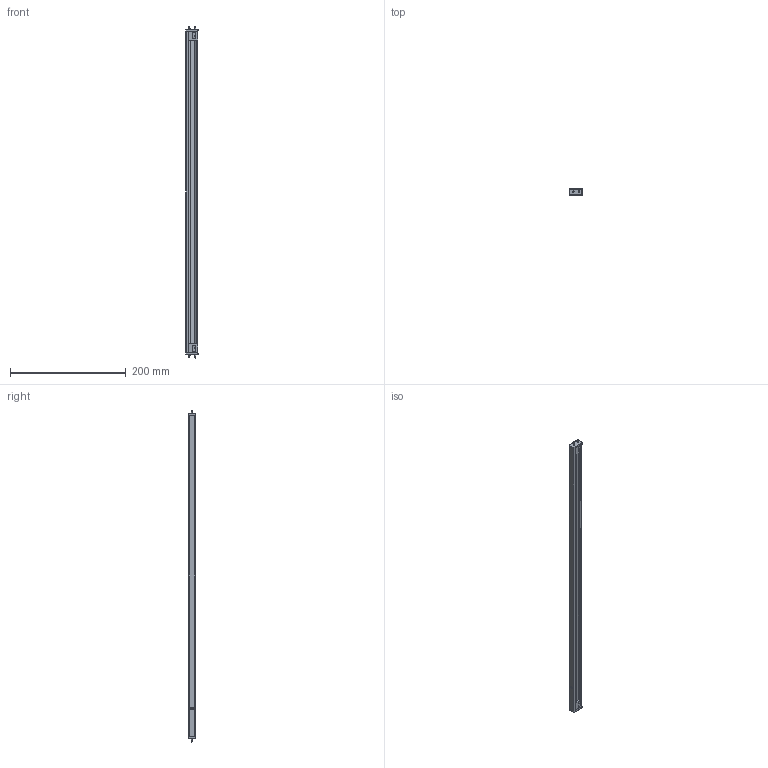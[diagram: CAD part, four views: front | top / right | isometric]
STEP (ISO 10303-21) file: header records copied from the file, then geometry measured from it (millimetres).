
FILE_DESCRIPTION (( 'STEP AP214' ), '1' );
FILE_NAME ('2000831 Kiton IRD Blue Light 561 mm.STEP', '2022-11-02T11:29:32', ( '' ), ( '' ), 'SwSTEP 2.0', 'SolidWorks 2021', '' );
FILE_SCHEMA (( 'AUTOMOTIVE_DESIGN' ));
Length unit declared in the file: millimetre
Products named in the file (11): SUPPORTO TESTATA_SUPPORTO TESTATA SX; TESTATA_TESTATA SX; SUPPORTO TESTATA_SUPPORTO TESTATA DX; STRIP REEL 180 LED METRO 5.25mm; 6201094 PROFILO LAMPADA_561; sheet metal screws_din_Tapping screw DIN 7049-ST2.2x9.5-C-H-C; 6201093 Konsole rechts_561 mm; 2000831 Kiton IRD Blue Light 561 mm; VITE TS TORX 2x6; TESTATA_TESTATA DX; SENSORE PROG. PROXIMITY
Assembly tree (20 placements, depth 2):
  2000831 Kiton IRD Blue Light 561 mm
    6201094 PROFILO LAMPADA_561
    6201093 Konsole rechts_561 mm
    TESTATA_TESTATA DX
    TESTATA_TESTATA SX
    SUPPORTO TESTATA_SUPPORTO TESTATA DX
    SUPPORTO TESTATA_SUPPORTO TESTATA SX
    SENSORE PROG. PROXIMITY  x2
    STRIP REEL 180 LED METRO 5.25mm  x7
    sheet metal screws_din_Tapping screw DIN 7049-ST2.2x9.5-C-H-C  x4
    VITE TS TORX 2x6
Bounding box: 22.2 x 11.46 x 574.26 mm (x, y, z)
Volume: 63402 mm3; surface area: 91005.4 mm2
Topology: 20 solids, 20 shells, 1637 faces, 4482 edges, 2975 vertices
Faces by surface type: plane 1206, cylinder 317, bspline 83, cone 15, sphere 12, torus 4
Entity records: 40450 total; most frequent: CARTESIAN_POINT 13968, ORIENTED_EDGE 5342, DIRECTION 4299, EDGE_CURVE 2671, VECTOR 2003, LINE 2003, VERTEX_POINT 1774, AXIS2_PLACEMENT_3D 1148
